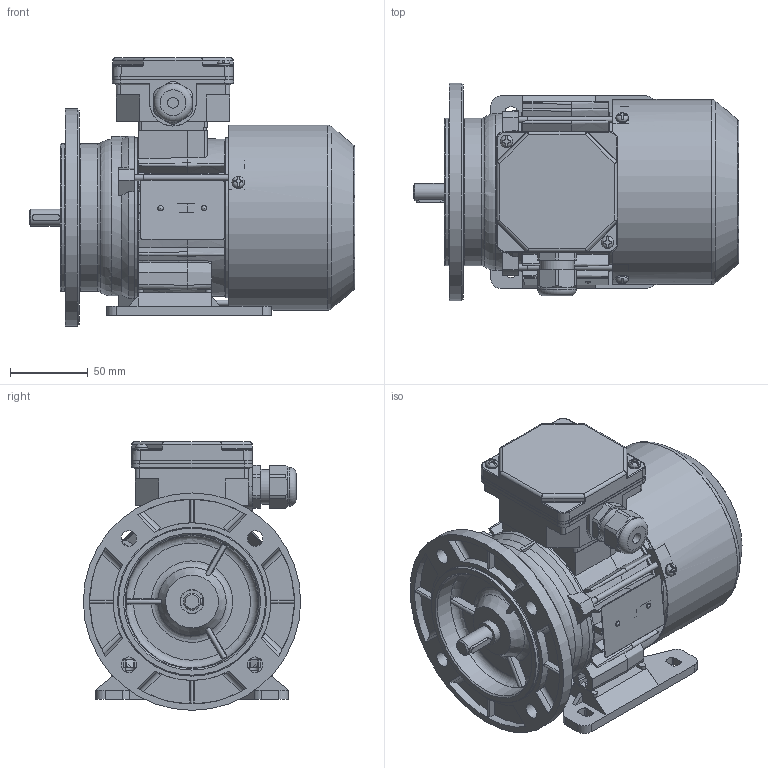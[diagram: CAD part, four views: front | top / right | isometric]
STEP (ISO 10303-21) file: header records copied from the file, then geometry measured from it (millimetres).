
FILE_DESCRIPTION(/* description */ ('Unknown'),/* implementation_level */ '2;1');
FILE_NAME(/* name */ '2SIEL63-4B',/* time_stamp */ '2021-04-12T11:45:46+02:00',/* author */ ('Unknown'),/* organization */ ('Unknown'),/* preprocessor_version */ 'ST-DEVELOPER v16.7',/* originating_system */ 'Solid Edge',/* authorisation */ 'Unknown');
FILE_SCHEMA (('AUTOMOTIVE_DESIGN {1 0 10303 214 3 1 1}'));
Length unit declared in the file: millimetre
Products named in the file (1): 2SIEL63-4B
Bounding box: 209.49 x 140 x 173 mm (x, y, z)
Volume: 581456.3 mm3; surface area: 348403.4 mm2
Topology: 2 solids, 2 shells, 1893 faces, 5382 edges, 3508 vertices
Faces by surface type: plane 992, cylinder 564, cone 112, torus 112, bspline 92, sphere 21
Full cylindrical faces by diameter (mm): 2.4 x2, 3.3 x3, 3.7 x7, 4 x5, 4.5 x3, 4.8 x2, 5 x2, 5.8 x4, 7 x4, 8 x6, 10 x4, 10.999 x1, 12.899 x1, 13.099 x1, 14.998 x2, 15.4 x2, 18.998 x2, 19.498 x1, 19.998 x1, 20.098 x1, 21.518 x4, 22.3 x1, 25 x1, 28 x2, 28.48 x4, 31 x2, 32 x1, 35 x3, 71.993 x1, 95 x2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
Entity records: 76904 total; most frequent: CARTESIAN_POINT 16172, ORIENTED_EDGE 10130, DIRECTION 9484, EDGE_CURVE 5065, AXIS2_PLACEMENT_3D 3447, VERTEX_POINT 3390, LINE 2590, VECTOR 2590
